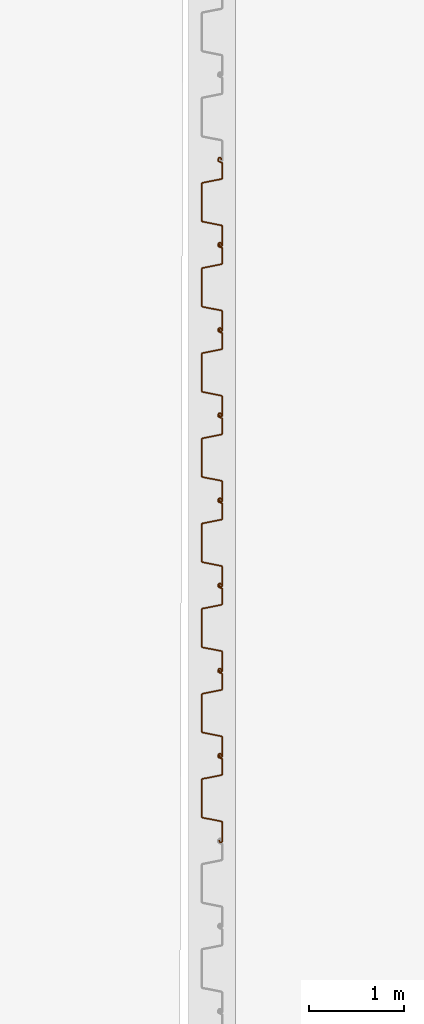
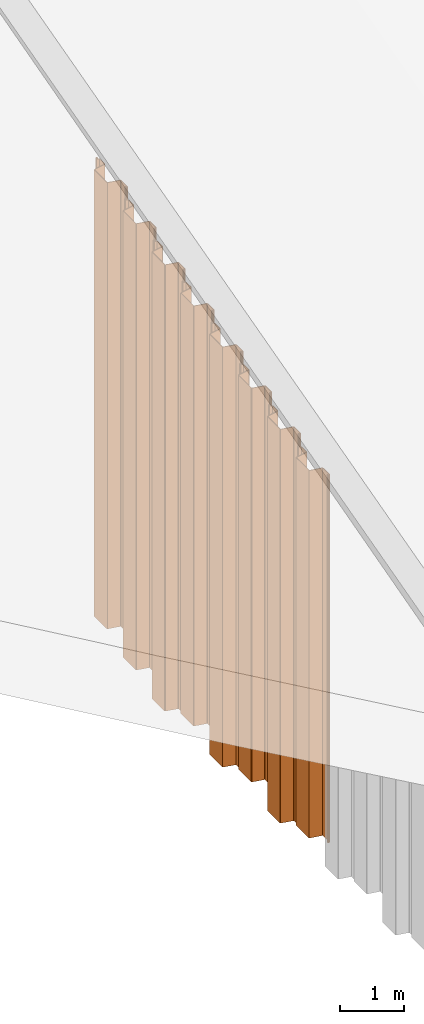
# One storey, part 7 of 32: 8 proxies.
"""IFC2X3 building model written with IfcOpenShell, lengths in millimetres."""

from ifc_helpers import new_model, entity, si_unit, converted_unit, derived_unit, direction, frame, frame_2d, origin, place, context, subcontext, project, spatial, polyline, circle_curve, parameter, trimmed, segment, composite_curve, outline, extrude, source, transform, mapped, type_object, type_shapes, element, save


model = new_model("IFC2X3")

# Units and contexts
model_context = context("Model", 3, precision=0.01, world=origin(), true_north=direction((6.12303176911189e-17, 1.0)))
body_context = subcontext(model_context, "Body", "Model", "MODEL_VIEW")
ifc_project = project(units=[si_unit("LENGTHUNIT", "METRE", prefix="MILLI"), si_unit("AREAUNIT", "SQUARE_METRE"), si_unit("VOLUMEUNIT", "CUBIC_METRE"), converted_unit("PLANEANGLEUNIT", "DEGREE", entity("IfcRatioMeasure", 0.0174532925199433), si_unit("PLANEANGLEUNIT", "RADIAN"), dimensions=[0, 0, 0, 0, 0, 0, 0]), si_unit("MASSUNIT", "GRAM", prefix="KILO"), derived_unit("MASSDENSITYUNIT", [(si_unit("MASSUNIT", "GRAM", prefix="KILO"), 1), (si_unit("LENGTHUNIT", "METRE"), -3)]), si_unit("TIMEUNIT", "SECOND"), si_unit("FREQUENCYUNIT", "HERTZ"), si_unit("THERMODYNAMICTEMPERATUREUNIT", "DEGREE_CELSIUS"), derived_unit("THERMALTRANSMITTANCEUNIT", [(si_unit("MASSUNIT", "GRAM", prefix="KILO"), 1), (si_unit("THERMODYNAMICTEMPERATUREUNIT", "KELVIN"), -1), (si_unit("TIMEUNIT", "SECOND"), -3)]), derived_unit("VOLUMETRICFLOWRATEUNIT", [(si_unit("LENGTHUNIT", "METRE"), 3), (si_unit("TIMEUNIT", "SECOND"), -1)]), si_unit("ELECTRICCURRENTUNIT", "AMPERE"), si_unit("ELECTRICVOLTAGEUNIT", "VOLT"), si_unit("POWERUNIT", "WATT"), si_unit("FORCEUNIT", "NEWTON", prefix="KILO"), si_unit("ILLUMINANCEUNIT", "LUX"), si_unit("LUMINOUSFLUXUNIT", "LUMEN"), si_unit("LUMINOUSINTENSITYUNIT", "CANDELA"), derived_unit("USERDEFINED", [(si_unit("MASSUNIT", "GRAM", prefix="KILO"), -1), (si_unit("LENGTHUNIT", "METRE"), -2), (si_unit("TIMEUNIT", "SECOND"), 3), (si_unit("LUMINOUSFLUXUNIT", "LUMEN"), 1)]), derived_unit("LINEARVELOCITYUNIT", [(si_unit("LENGTHUNIT", "METRE"), 1), (si_unit("TIMEUNIT", "SECOND"), -1)]), si_unit("PRESSUREUNIT", "PASCAL"), derived_unit("USERDEFINED", [(si_unit("LENGTHUNIT", "METRE"), -2), (si_unit("MASSUNIT", "GRAM", prefix="KILO"), 1), (si_unit("TIMEUNIT", "SECOND"), -2)])], contexts=[model_context])

# Site, building, storey
site_placement = place(None, origin())
site = spatial("IfcSite", under=ifc_project, at=site_placement, Name="Default", CompositionType="ELEMENT")
building_placement = place(site_placement, origin())
building = spatial("IfcBuilding", under=site, at=building_placement, CompositionType="ELEMENT")
storey_placement = place(building_placement, origin())
storey = spatial("IfcBuildingStorey", under=building, at=storey_placement, Name="矢板", CompositionType="ELEMENT", Elevation=0.0)

# Proxies
building_element_proxy_type_1 = type_object("IfcBuildingElementProxyType", Name="鋼矢板10H型", PredefinedType="NOTDEFINED")
shared_shape_1 = source(origin(), body_context, "Body", "SweptSolid", [
    extrude(outline(composite_curve([segment(trimmed(circle_curve(frame_2d((85.3662976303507, 306.644432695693), x_axis=(0.422618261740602, 0.906307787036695)), 13.885714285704), [parameter(24.9999999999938)], [parameter(90.0000000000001)], True, "PARAMETER"), True, "CONTINUOUS"), segment(polyline([(72.7815666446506, 312.512789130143), (9.8129512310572, 177.476157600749)]), True, "CONTINUOUS"), segment(trimmed(circle_curve(frame_2d((29.3891994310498, 168.347603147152), x_axis=(0.422618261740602, 0.906307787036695)), 21.6), [parameter(90.0000000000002)], [parameter(168.69006752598)], True, "PARAMETER"), True, "CONTINUOUS"), segment(polyline([(16.598697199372, 150.941769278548), (175.329723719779, 34.2998683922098)]), True, "CONTINUOUS"), segment(trimmed(circle_curve(frame_2d((168.93447260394, 25.596951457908), x_axis=(0.422618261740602, 0.906307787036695)), 10.7999999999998), [parameter(270.0)], [parameter(348.690067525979)], True, "PARAMETER"), False, "CONTINUOUS"), segment(polyline([(178.722596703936, 21.0326742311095), (18.2974003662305, -323.000269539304)]), True, "CONTINUOUS"), segment(trimmed(circle_curve(frame_2d((8.50927626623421, -318.435992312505), x_axis=(0.422618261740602, 0.906307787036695)), 10.8), [parameter(191.30993247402)], [parameter(269.999999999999)], True, "PARAMETER"), False, "CONTINUOUS"), segment(polyline([(5.95324328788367, -328.929166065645), (-185.429973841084, -282.310113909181)]), True, "CONTINUOUS"), segment(trimmed(circle_curve(frame_2d((-190.542039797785, -303.296461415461), x_axis=(0.422618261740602, 0.906307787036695)), 21.6000000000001), [parameter(11.3099324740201)], [parameter(90.0000000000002)], True, "PARAMETER"), True, "CONTINUOUS"), segment(polyline([(-210.118287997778, -294.167906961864), (-290.330886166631, -466.184378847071)]), True, "CONTINUOUS"), segment(trimmed(circle_curve(frame_2d((-270.754637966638, -475.312933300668), x_axis=(0.422618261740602, 0.906307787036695)), 21.6), [parameter(90.0000000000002)], [parameter(269.999999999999)], True, "PARAMETER"), True, "CONTINUOUS"), segment(polyline([(-251.178389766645, -484.441487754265), (-249.065298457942, -479.909948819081)]), True, "CONTINUOUS"), segment(polyline([(-249.065298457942, -479.909948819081), (-258.853422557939, -475.345671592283)]), True, "CONTINUOUS"), segment(polyline([(-258.853422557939, -475.345671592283), (-260.966513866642, -479.877210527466)]), True, "CONTINUOUS"), segment(trimmed(circle_curve(frame_2d((-270.754637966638, -475.312933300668), x_axis=(0.422618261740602, 0.906307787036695)), 10.8), [parameter(90.0000000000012)], [parameter(270.0)], True, "PARAMETER"), False, "CONTINUOUS"), segment(polyline([(-280.542762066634, -470.748656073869), (-200.330163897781, -298.732184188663)]), True, "CONTINUOUS"), segment(trimmed(circle_curve(frame_2d((-190.542039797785, -303.296461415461), x_axis=(0.422618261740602, 0.906307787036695)), 10.8), [parameter(11.3099324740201)], [parameter(89.9999999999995)], True, "PARAMETER"), False, "CONTINUOUS"), segment(polyline([(-187.986006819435, -292.803287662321), (3.39721030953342, -339.422339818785)]), True, "CONTINUOUS"), segment(trimmed(circle_curve(frame_2d((8.50927626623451, -318.435992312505), x_axis=(0.422618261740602, 0.906307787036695)), 21.6), [parameter(191.30993247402)], [parameter(270.0)], True, "PARAMETER"), True, "CONTINUOUS"), segment(polyline([(28.0855244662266, -327.564546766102), (188.510720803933, 16.4683970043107)]), True, "CONTINUOUS"), segment(trimmed(circle_curve(frame_2d((168.93447260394, 25.5969514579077), x_axis=(0.422618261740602, 0.906307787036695)), 21.6), [parameter(270.0)], [parameter(348.69006752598)], True, "PARAMETER"), True, "CONTINUOUS"), segment(polyline([(181.724974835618, 43.0027853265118), (22.9939483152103, 159.644686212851)]), True, "CONTINUOUS"), segment(trimmed(circle_curve(frame_2d((29.3891994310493, 168.347603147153), x_axis=(0.422618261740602, 0.906307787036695)), 10.7999999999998), [parameter(89.9999999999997)], [parameter(168.690067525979)], True, "PARAMETER"), False, "CONTINUOUS"), segment(polyline([(19.6010753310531, 172.911880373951), (82.5696907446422, 307.948511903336)]), True, "CONTINUOUS"), segment(trimmed(circle_curve(frame_2d((85.3662976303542, 306.64443269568), x_axis=(0.422618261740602, 0.906307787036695)), 3.08571428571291), [parameter(25.0000000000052)], [parameter(90.0000000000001)], True, "PARAMETER"), False, "CONTINUOUS"), segment(polyline([(85.3662976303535, 309.730146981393), (122.220231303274, 309.730146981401)]), True, "CONTINUOUS"), segment(trimmed(circle_curve(frame_2d((122.220231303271, 323.615861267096), x_axis=(0.422618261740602, 0.906307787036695)), 13.8857142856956), [parameter(205.000000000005)], [parameter(270.0)], True, "PARAMETER"), True, "CONTINUOUS"), segment(polyline([(134.804962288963, 317.747504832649), (141.079261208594, 331.202782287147)]), True, "CONTINUOUS"), segment(trimmed(circle_curve(frame_2d((121.503013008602, 340.331336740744), x_axis=(0.422618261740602, 0.906307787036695)), 21.6), [parameter(270.0)], [parameter(90.0000000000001)], True, "PARAMETER"), True, "CONTINUOUS"), segment(polyline([(101.926764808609, 349.459891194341), (99.8136734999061, 344.928352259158)]), True, "CONTINUOUS"), segment(polyline([(99.8136734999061, 344.928352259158), (109.601797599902, 340.364075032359)]), True, "CONTINUOUS"), segment(polyline([(109.601797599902, 340.364075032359), (111.714888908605, 344.895613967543)]), True, "CONTINUOUS"), segment(trimmed(circle_curve(frame_2d((121.503013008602, 340.331336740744), x_axis=(0.422618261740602, 0.906307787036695)), 10.8), [parameter(270.0)], [parameter(89.9999999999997)], True, "PARAMETER"), False, "CONTINUOUS"), segment(polyline([(131.291137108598, 335.767059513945), (125.01683818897, 322.311782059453)]), True, "CONTINUOUS"), segment(trimmed(circle_curve(frame_2d((122.220231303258, 323.615861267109), x_axis=(0.422618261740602, 0.906307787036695)), 3.08571428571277), [parameter(204.999999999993)], [parameter(270.0)], True, "PARAMETER"), False, "CONTINUOUS"), segment(polyline([(122.220231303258, 320.530146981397), (85.3662976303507, 320.530146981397)]), True, "CONTINUOUS")], self_intersect=False)), frame((95.205667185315, -48.8888888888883, -7000.0), z_axis=(0.0, 0.0, -1.0), x_axis=(0.4226182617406, 0.906307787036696, 0.0)), (0.0, 0.0, -1.0), 7000.0),
])
type_shapes(building_element_proxy_type_1, [shared_shape_1])
proxy_placement = place(storey_placement, frame((-128208.0, -20449.0, 9183.0), z_axis=(0.0, 0.0, 1.0), x_axis=(0.0, 1.0, 0.0)))
element("IfcBuildingElementProxy", 1, at=proxy_placement, inside=storey, type_object=building_element_proxy_type_1, Name="鋼矢板10H型:鋼矢板10H型", ObjectType="鋼矢板10H型:鋼矢板10H型", context=body_context, shape_type="MappedRepresentation", body=[
    mapped(shared_shape_1, transform((0.0, 0.0, 0.0), scale=1.0)),
])
building_element_proxy_type_2 = type_object("IfcBuildingElementProxyType", Name="鋼矢板10H型", PredefinedType="NOTDEFINED")
shared_shape_2 = source(origin(), body_context, "Body", "SweptSolid", [
    extrude(outline(composite_curve([segment(trimmed(circle_curve(frame_2d((85.3662976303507, 306.644432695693), x_axis=(0.422618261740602, 0.906307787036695)), 13.885714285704), [parameter(24.9999999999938)], [parameter(90.0000000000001)], True, "PARAMETER"), True, "CONTINUOUS"), segment(polyline([(72.7815666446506, 312.512789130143), (9.8129512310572, 177.476157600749)]), True, "CONTINUOUS"), segment(trimmed(circle_curve(frame_2d((29.3891994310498, 168.347603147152), x_axis=(0.422618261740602, 0.906307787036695)), 21.6), [parameter(90.0000000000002)], [parameter(168.69006752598)], True, "PARAMETER"), True, "CONTINUOUS"), segment(polyline([(16.598697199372, 150.941769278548), (175.329723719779, 34.2998683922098)]), True, "CONTINUOUS"), segment(trimmed(circle_curve(frame_2d((168.93447260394, 25.596951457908), x_axis=(0.422618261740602, 0.906307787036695)), 10.7999999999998), [parameter(270.0)], [parameter(348.690067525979)], True, "PARAMETER"), False, "CONTINUOUS"), segment(polyline([(178.722596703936, 21.0326742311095), (18.2974003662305, -323.000269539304)]), True, "CONTINUOUS"), segment(trimmed(circle_curve(frame_2d((8.50927626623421, -318.435992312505), x_axis=(0.422618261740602, 0.906307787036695)), 10.8), [parameter(191.30993247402)], [parameter(269.999999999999)], True, "PARAMETER"), False, "CONTINUOUS"), segment(polyline([(5.95324328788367, -328.929166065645), (-185.429973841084, -282.310113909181)]), True, "CONTINUOUS"), segment(trimmed(circle_curve(frame_2d((-190.542039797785, -303.296461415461), x_axis=(0.422618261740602, 0.906307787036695)), 21.6000000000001), [parameter(11.3099324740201)], [parameter(90.0000000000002)], True, "PARAMETER"), True, "CONTINUOUS"), segment(polyline([(-210.118287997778, -294.167906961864), (-290.330886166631, -466.184378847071)]), True, "CONTINUOUS"), segment(trimmed(circle_curve(frame_2d((-270.754637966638, -475.312933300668), x_axis=(0.422618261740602, 0.906307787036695)), 21.6), [parameter(90.0000000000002)], [parameter(269.999999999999)], True, "PARAMETER"), True, "CONTINUOUS"), segment(polyline([(-251.178389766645, -484.441487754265), (-249.065298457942, -479.909948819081)]), True, "CONTINUOUS"), segment(polyline([(-249.065298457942, -479.909948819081), (-258.853422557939, -475.345671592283)]), True, "CONTINUOUS"), segment(polyline([(-258.853422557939, -475.345671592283), (-260.966513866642, -479.877210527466)]), True, "CONTINUOUS"), segment(trimmed(circle_curve(frame_2d((-270.754637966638, -475.312933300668), x_axis=(0.422618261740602, 0.906307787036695)), 10.8), [parameter(90.0000000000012)], [parameter(270.0)], True, "PARAMETER"), False, "CONTINUOUS"), segment(polyline([(-280.542762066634, -470.748656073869), (-200.330163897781, -298.732184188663)]), True, "CONTINUOUS"), segment(trimmed(circle_curve(frame_2d((-190.542039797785, -303.296461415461), x_axis=(0.422618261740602, 0.906307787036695)), 10.8), [parameter(11.3099324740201)], [parameter(89.9999999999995)], True, "PARAMETER"), False, "CONTINUOUS"), segment(polyline([(-187.986006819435, -292.803287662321), (3.39721030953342, -339.422339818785)]), True, "CONTINUOUS"), segment(trimmed(circle_curve(frame_2d((8.50927626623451, -318.435992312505), x_axis=(0.422618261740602, 0.906307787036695)), 21.6), [parameter(191.30993247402)], [parameter(270.0)], True, "PARAMETER"), True, "CONTINUOUS"), segment(polyline([(28.0855244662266, -327.564546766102), (188.510720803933, 16.4683970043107)]), True, "CONTINUOUS"), segment(trimmed(circle_curve(frame_2d((168.93447260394, 25.5969514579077), x_axis=(0.422618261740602, 0.906307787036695)), 21.6), [parameter(270.0)], [parameter(348.69006752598)], True, "PARAMETER"), True, "CONTINUOUS"), segment(polyline([(181.724974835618, 43.0027853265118), (22.9939483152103, 159.644686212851)]), True, "CONTINUOUS"), segment(trimmed(circle_curve(frame_2d((29.3891994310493, 168.347603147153), x_axis=(0.422618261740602, 0.906307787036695)), 10.7999999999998), [parameter(89.9999999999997)], [parameter(168.690067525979)], True, "PARAMETER"), False, "CONTINUOUS"), segment(polyline([(19.6010753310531, 172.911880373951), (82.5696907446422, 307.948511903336)]), True, "CONTINUOUS"), segment(trimmed(circle_curve(frame_2d((85.3662976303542, 306.64443269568), x_axis=(0.422618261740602, 0.906307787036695)), 3.08571428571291), [parameter(25.0000000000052)], [parameter(90.0000000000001)], True, "PARAMETER"), False, "CONTINUOUS"), segment(polyline([(85.3662976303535, 309.730146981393), (122.220231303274, 309.730146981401)]), True, "CONTINUOUS"), segment(trimmed(circle_curve(frame_2d((122.220231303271, 323.615861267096), x_axis=(0.422618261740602, 0.906307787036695)), 13.8857142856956), [parameter(205.000000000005)], [parameter(270.0)], True, "PARAMETER"), True, "CONTINUOUS"), segment(polyline([(134.804962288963, 317.747504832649), (141.079261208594, 331.202782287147)]), True, "CONTINUOUS"), segment(trimmed(circle_curve(frame_2d((121.503013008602, 340.331336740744), x_axis=(0.422618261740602, 0.906307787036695)), 21.6), [parameter(270.0)], [parameter(90.0000000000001)], True, "PARAMETER"), True, "CONTINUOUS"), segment(polyline([(101.926764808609, 349.459891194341), (99.8136734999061, 344.928352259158)]), True, "CONTINUOUS"), segment(polyline([(99.8136734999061, 344.928352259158), (109.601797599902, 340.364075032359)]), True, "CONTINUOUS"), segment(polyline([(109.601797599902, 340.364075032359), (111.714888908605, 344.895613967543)]), True, "CONTINUOUS"), segment(trimmed(circle_curve(frame_2d((121.503013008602, 340.331336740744), x_axis=(0.422618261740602, 0.906307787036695)), 10.8), [parameter(270.0)], [parameter(89.9999999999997)], True, "PARAMETER"), False, "CONTINUOUS"), segment(polyline([(131.291137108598, 335.767059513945), (125.01683818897, 322.311782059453)]), True, "CONTINUOUS"), segment(trimmed(circle_curve(frame_2d((122.220231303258, 323.615861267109), x_axis=(0.422618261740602, 0.906307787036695)), 3.08571428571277), [parameter(204.999999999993)], [parameter(270.0)], True, "PARAMETER"), False, "CONTINUOUS"), segment(polyline([(122.220231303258, 320.530146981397), (85.3662976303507, 320.530146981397)]), True, "CONTINUOUS")], self_intersect=False)), frame((95.205667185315, -48.8888888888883, -7500.0), z_axis=(0.0, 0.0, -1.0), x_axis=(0.4226182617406, 0.906307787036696, 0.0)), (0.0, 0.0, -1.0), 7500.0),
])
type_shapes(building_element_proxy_type_2, [shared_shape_2])
for number, where, z_axis, x_axis in (
    (2, (-128208.0, -18649.0, 9657.0), (0.0, 0.0, 1.0), (0.0, 1.0, 0.0)),
    (3, (-128208.0, -19549.0, 9420.0), (0.0, 0.0, 1.0), (0.0, 1.0, 0.0)),
):
    element("IfcBuildingElementProxy", number, at=place(storey_placement, frame(where, z_axis=z_axis, x_axis=x_axis)), inside=storey, type_object=building_element_proxy_type_2, Name="鋼矢板10H型:鋼矢板10H型", ObjectType="鋼矢板10H型:鋼矢板10H型", context=body_context, shape_type="MappedRepresentation", body=[
        mapped(shared_shape_2, transform((0.0, 0.0, 0.0), scale=1.0)),
    ])
building_element_proxy_type_3 = type_object("IfcBuildingElementProxyType", Name="鋼矢板10H型", PredefinedType="NOTDEFINED")
shared_shape_3 = source(origin(), body_context, "Body", "SweptSolid", [
    extrude(outline(composite_curve([segment(trimmed(circle_curve(frame_2d((85.3662976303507, 306.644432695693), x_axis=(0.422618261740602, 0.906307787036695)), 13.885714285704), [parameter(24.9999999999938)], [parameter(90.0000000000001)], True, "PARAMETER"), True, "CONTINUOUS"), segment(polyline([(72.7815666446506, 312.512789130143), (9.8129512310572, 177.476157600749)]), True, "CONTINUOUS"), segment(trimmed(circle_curve(frame_2d((29.3891994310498, 168.347603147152), x_axis=(0.422618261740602, 0.906307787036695)), 21.6), [parameter(90.0000000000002)], [parameter(168.69006752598)], True, "PARAMETER"), True, "CONTINUOUS"), segment(polyline([(16.598697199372, 150.941769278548), (175.329723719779, 34.2998683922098)]), True, "CONTINUOUS"), segment(trimmed(circle_curve(frame_2d((168.93447260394, 25.596951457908), x_axis=(0.422618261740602, 0.906307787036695)), 10.7999999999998), [parameter(270.0)], [parameter(348.690067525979)], True, "PARAMETER"), False, "CONTINUOUS"), segment(polyline([(178.722596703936, 21.0326742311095), (18.2974003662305, -323.000269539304)]), True, "CONTINUOUS"), segment(trimmed(circle_curve(frame_2d((8.50927626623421, -318.435992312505), x_axis=(0.422618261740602, 0.906307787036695)), 10.8), [parameter(191.30993247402)], [parameter(269.999999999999)], True, "PARAMETER"), False, "CONTINUOUS"), segment(polyline([(5.95324328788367, -328.929166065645), (-185.429973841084, -282.310113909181)]), True, "CONTINUOUS"), segment(trimmed(circle_curve(frame_2d((-190.542039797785, -303.296461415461), x_axis=(0.422618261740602, 0.906307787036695)), 21.6000000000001), [parameter(11.3099324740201)], [parameter(90.0000000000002)], True, "PARAMETER"), True, "CONTINUOUS"), segment(polyline([(-210.118287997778, -294.167906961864), (-290.330886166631, -466.184378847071)]), True, "CONTINUOUS"), segment(trimmed(circle_curve(frame_2d((-270.754637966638, -475.312933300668), x_axis=(0.422618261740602, 0.906307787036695)), 21.6), [parameter(90.0000000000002)], [parameter(269.999999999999)], True, "PARAMETER"), True, "CONTINUOUS"), segment(polyline([(-251.178389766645, -484.441487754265), (-249.065298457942, -479.909948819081)]), True, "CONTINUOUS"), segment(polyline([(-249.065298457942, -479.909948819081), (-258.853422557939, -475.345671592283)]), True, "CONTINUOUS"), segment(polyline([(-258.853422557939, -475.345671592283), (-260.966513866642, -479.877210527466)]), True, "CONTINUOUS"), segment(trimmed(circle_curve(frame_2d((-270.754637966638, -475.312933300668), x_axis=(0.422618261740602, 0.906307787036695)), 10.8), [parameter(90.0000000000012)], [parameter(270.0)], True, "PARAMETER"), False, "CONTINUOUS"), segment(polyline([(-280.542762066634, -470.748656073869), (-200.330163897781, -298.732184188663)]), True, "CONTINUOUS"), segment(trimmed(circle_curve(frame_2d((-190.542039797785, -303.296461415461), x_axis=(0.422618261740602, 0.906307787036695)), 10.8), [parameter(11.3099324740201)], [parameter(89.9999999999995)], True, "PARAMETER"), False, "CONTINUOUS"), segment(polyline([(-187.986006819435, -292.803287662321), (3.39721030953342, -339.422339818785)]), True, "CONTINUOUS"), segment(trimmed(circle_curve(frame_2d((8.50927626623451, -318.435992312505), x_axis=(0.422618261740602, 0.906307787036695)), 21.6), [parameter(191.30993247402)], [parameter(270.0)], True, "PARAMETER"), True, "CONTINUOUS"), segment(polyline([(28.0855244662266, -327.564546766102), (188.510720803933, 16.4683970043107)]), True, "CONTINUOUS"), segment(trimmed(circle_curve(frame_2d((168.93447260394, 25.5969514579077), x_axis=(0.422618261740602, 0.906307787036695)), 21.6), [parameter(270.0)], [parameter(348.69006752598)], True, "PARAMETER"), True, "CONTINUOUS"), segment(polyline([(181.724974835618, 43.0027853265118), (22.9939483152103, 159.644686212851)]), True, "CONTINUOUS"), segment(trimmed(circle_curve(frame_2d((29.3891994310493, 168.347603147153), x_axis=(0.422618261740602, 0.906307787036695)), 10.7999999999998), [parameter(89.9999999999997)], [parameter(168.690067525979)], True, "PARAMETER"), False, "CONTINUOUS"), segment(polyline([(19.6010753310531, 172.911880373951), (82.5696907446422, 307.948511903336)]), True, "CONTINUOUS"), segment(trimmed(circle_curve(frame_2d((85.3662976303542, 306.64443269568), x_axis=(0.422618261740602, 0.906307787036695)), 3.08571428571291), [parameter(25.0000000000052)], [parameter(90.0000000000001)], True, "PARAMETER"), False, "CONTINUOUS"), segment(polyline([(85.3662976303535, 309.730146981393), (122.220231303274, 309.730146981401)]), True, "CONTINUOUS"), segment(trimmed(circle_curve(frame_2d((122.220231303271, 323.615861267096), x_axis=(0.422618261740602, 0.906307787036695)), 13.8857142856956), [parameter(205.000000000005)], [parameter(270.0)], True, "PARAMETER"), True, "CONTINUOUS"), segment(polyline([(134.804962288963, 317.747504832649), (141.079261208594, 331.202782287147)]), True, "CONTINUOUS"), segment(trimmed(circle_curve(frame_2d((121.503013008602, 340.331336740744), x_axis=(0.422618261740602, 0.906307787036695)), 21.6), [parameter(270.0)], [parameter(90.0000000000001)], True, "PARAMETER"), True, "CONTINUOUS"), segment(polyline([(101.926764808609, 349.459891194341), (99.8136734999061, 344.928352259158)]), True, "CONTINUOUS"), segment(polyline([(99.8136734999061, 344.928352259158), (109.601797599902, 340.364075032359)]), True, "CONTINUOUS"), segment(polyline([(109.601797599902, 340.364075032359), (111.714888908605, 344.895613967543)]), True, "CONTINUOUS"), segment(trimmed(circle_curve(frame_2d((121.503013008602, 340.331336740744), x_axis=(0.422618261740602, 0.906307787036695)), 10.8), [parameter(270.0)], [parameter(89.9999999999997)], True, "PARAMETER"), False, "CONTINUOUS"), segment(polyline([(131.291137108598, 335.767059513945), (125.01683818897, 322.311782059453)]), True, "CONTINUOUS"), segment(trimmed(circle_curve(frame_2d((122.220231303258, 323.615861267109), x_axis=(0.422618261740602, 0.906307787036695)), 3.08571428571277), [parameter(204.999999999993)], [parameter(270.0)], True, "PARAMETER"), False, "CONTINUOUS"), segment(polyline([(122.220231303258, 320.530146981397), (85.3662976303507, 320.530146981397)]), True, "CONTINUOUS")], self_intersect=False)), frame((95.205667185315, -48.8888888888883, -8000.0), z_axis=(0.0, 0.0, -1.0), x_axis=(0.4226182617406, 0.906307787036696, 0.0)), (0.0, 0.0, -1.0), 8000.0),
])
type_shapes(building_element_proxy_type_3, [shared_shape_3])
for number, where, z_axis, x_axis in (
    (4, (-128208.0, -16849.0, 10131.0), (0.0, 0.0, 1.0), (0.0, 1.0, 0.0)),
    (5, (-128208.0, -17749.0, 9894.0), (0.0, 0.0, 1.0), (0.0, 1.0, 0.0)),
):
    element("IfcBuildingElementProxy", number, at=place(storey_placement, frame(where, z_axis=z_axis, x_axis=x_axis)), inside=storey, type_object=building_element_proxy_type_3, Name="鋼矢板10H型:鋼矢板10H型", ObjectType="鋼矢板10H型:鋼矢板10H型", context=body_context, shape_type="MappedRepresentation", body=[
        mapped(shared_shape_3, transform((0.0, 0.0, 0.0), scale=1.0)),
    ])
building_element_proxy_type_4 = type_object("IfcBuildingElementProxyType", Name="鋼矢板10H型", PredefinedType="NOTDEFINED")
shared_shape_4 = source(origin(), body_context, "Body", "SweptSolid", [
    extrude(outline(composite_curve([segment(trimmed(circle_curve(frame_2d((85.3662976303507, 306.644432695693), x_axis=(0.422618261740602, 0.906307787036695)), 13.885714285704), [parameter(24.9999999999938)], [parameter(90.0000000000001)], True, "PARAMETER"), True, "CONTINUOUS"), segment(polyline([(72.7815666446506, 312.512789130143), (9.8129512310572, 177.476157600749)]), True, "CONTINUOUS"), segment(trimmed(circle_curve(frame_2d((29.3891994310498, 168.347603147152), x_axis=(0.422618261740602, 0.906307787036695)), 21.6), [parameter(90.0000000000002)], [parameter(168.69006752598)], True, "PARAMETER"), True, "CONTINUOUS"), segment(polyline([(16.598697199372, 150.941769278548), (175.329723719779, 34.2998683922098)]), True, "CONTINUOUS"), segment(trimmed(circle_curve(frame_2d((168.93447260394, 25.596951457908), x_axis=(0.422618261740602, 0.906307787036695)), 10.7999999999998), [parameter(270.0)], [parameter(348.690067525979)], True, "PARAMETER"), False, "CONTINUOUS"), segment(polyline([(178.722596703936, 21.0326742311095), (18.2974003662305, -323.000269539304)]), True, "CONTINUOUS"), segment(trimmed(circle_curve(frame_2d((8.50927626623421, -318.435992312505), x_axis=(0.422618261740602, 0.906307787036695)), 10.8), [parameter(191.30993247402)], [parameter(269.999999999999)], True, "PARAMETER"), False, "CONTINUOUS"), segment(polyline([(5.95324328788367, -328.929166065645), (-185.429973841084, -282.310113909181)]), True, "CONTINUOUS"), segment(trimmed(circle_curve(frame_2d((-190.542039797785, -303.296461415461), x_axis=(0.422618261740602, 0.906307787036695)), 21.6000000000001), [parameter(11.3099324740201)], [parameter(90.0000000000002)], True, "PARAMETER"), True, "CONTINUOUS"), segment(polyline([(-210.118287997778, -294.167906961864), (-290.330886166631, -466.184378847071)]), True, "CONTINUOUS"), segment(trimmed(circle_curve(frame_2d((-270.754637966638, -475.312933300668), x_axis=(0.422618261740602, 0.906307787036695)), 21.6), [parameter(90.0000000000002)], [parameter(269.999999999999)], True, "PARAMETER"), True, "CONTINUOUS"), segment(polyline([(-251.178389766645, -484.441487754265), (-249.065298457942, -479.909948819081)]), True, "CONTINUOUS"), segment(polyline([(-249.065298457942, -479.909948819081), (-258.853422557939, -475.345671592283)]), True, "CONTINUOUS"), segment(polyline([(-258.853422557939, -475.345671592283), (-260.966513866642, -479.877210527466)]), True, "CONTINUOUS"), segment(trimmed(circle_curve(frame_2d((-270.754637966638, -475.312933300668), x_axis=(0.422618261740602, 0.906307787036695)), 10.8), [parameter(90.0000000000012)], [parameter(270.0)], True, "PARAMETER"), False, "CONTINUOUS"), segment(polyline([(-280.542762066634, -470.748656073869), (-200.330163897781, -298.732184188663)]), True, "CONTINUOUS"), segment(trimmed(circle_curve(frame_2d((-190.542039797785, -303.296461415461), x_axis=(0.422618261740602, 0.906307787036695)), 10.8), [parameter(11.3099324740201)], [parameter(89.9999999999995)], True, "PARAMETER"), False, "CONTINUOUS"), segment(polyline([(-187.986006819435, -292.803287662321), (3.39721030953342, -339.422339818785)]), True, "CONTINUOUS"), segment(trimmed(circle_curve(frame_2d((8.50927626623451, -318.435992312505), x_axis=(0.422618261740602, 0.906307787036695)), 21.6), [parameter(191.30993247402)], [parameter(270.0)], True, "PARAMETER"), True, "CONTINUOUS"), segment(polyline([(28.0855244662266, -327.564546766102), (188.510720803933, 16.4683970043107)]), True, "CONTINUOUS"), segment(trimmed(circle_curve(frame_2d((168.93447260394, 25.5969514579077), x_axis=(0.422618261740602, 0.906307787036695)), 21.6), [parameter(270.0)], [parameter(348.69006752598)], True, "PARAMETER"), True, "CONTINUOUS"), segment(polyline([(181.724974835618, 43.0027853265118), (22.9939483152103, 159.644686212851)]), True, "CONTINUOUS"), segment(trimmed(circle_curve(frame_2d((29.3891994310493, 168.347603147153), x_axis=(0.422618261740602, 0.906307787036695)), 10.7999999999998), [parameter(89.9999999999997)], [parameter(168.690067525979)], True, "PARAMETER"), False, "CONTINUOUS"), segment(polyline([(19.6010753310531, 172.911880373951), (82.5696907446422, 307.948511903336)]), True, "CONTINUOUS"), segment(trimmed(circle_curve(frame_2d((85.3662976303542, 306.64443269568), x_axis=(0.422618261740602, 0.906307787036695)), 3.08571428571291), [parameter(25.0000000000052)], [parameter(90.0000000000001)], True, "PARAMETER"), False, "CONTINUOUS"), segment(polyline([(85.3662976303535, 309.730146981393), (122.220231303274, 309.730146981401)]), True, "CONTINUOUS"), segment(trimmed(circle_curve(frame_2d((122.220231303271, 323.615861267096), x_axis=(0.422618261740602, 0.906307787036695)), 13.8857142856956), [parameter(205.000000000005)], [parameter(270.0)], True, "PARAMETER"), True, "CONTINUOUS"), segment(polyline([(134.804962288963, 317.747504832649), (141.079261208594, 331.202782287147)]), True, "CONTINUOUS"), segment(trimmed(circle_curve(frame_2d((121.503013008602, 340.331336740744), x_axis=(0.422618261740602, 0.906307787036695)), 21.6), [parameter(270.0)], [parameter(90.0000000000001)], True, "PARAMETER"), True, "CONTINUOUS"), segment(polyline([(101.926764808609, 349.459891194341), (99.8136734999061, 344.928352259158)]), True, "CONTINUOUS"), segment(polyline([(99.8136734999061, 344.928352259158), (109.601797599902, 340.364075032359)]), True, "CONTINUOUS"), segment(polyline([(109.601797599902, 340.364075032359), (111.714888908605, 344.895613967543)]), True, "CONTINUOUS"), segment(trimmed(circle_curve(frame_2d((121.503013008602, 340.331336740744), x_axis=(0.422618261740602, 0.906307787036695)), 10.8), [parameter(270.0)], [parameter(89.9999999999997)], True, "PARAMETER"), False, "CONTINUOUS"), segment(polyline([(131.291137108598, 335.767059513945), (125.01683818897, 322.311782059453)]), True, "CONTINUOUS"), segment(trimmed(circle_curve(frame_2d((122.220231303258, 323.615861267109), x_axis=(0.422618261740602, 0.906307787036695)), 3.08571428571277), [parameter(204.999999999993)], [parameter(270.0)], True, "PARAMETER"), False, "CONTINUOUS"), segment(polyline([(122.220231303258, 320.530146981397), (85.3662976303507, 320.530146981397)]), True, "CONTINUOUS")], self_intersect=False)), frame((95.205667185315, -48.8888888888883, -8500.0), z_axis=(0.0, 0.0, -1.0), x_axis=(0.4226182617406, 0.906307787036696, 0.0)), (0.0, 0.0, -1.0), 8500.0),
])
type_shapes(building_element_proxy_type_4, [shared_shape_4])
for number, where, z_axis, x_axis in (
    (6, (-128208.0, -14149.0, 10843.0), (0.0, 0.0, 1.0), (0.0, 1.0, 0.0)),
    (7, (-128208.0, -15049.0, 10605.0), (0.0, 0.0, 1.0), (0.0, 1.0, 0.0)),
    (8, (-128208.0, -15949.0, 10368.0), (0.0, 0.0, 1.0), (0.0, 1.0, 0.0)),
):
    element("IfcBuildingElementProxy", number, at=place(storey_placement, frame(where, z_axis=z_axis, x_axis=x_axis)), inside=storey, type_object=building_element_proxy_type_4, Name="鋼矢板10H型:鋼矢板10H型", ObjectType="鋼矢板10H型:鋼矢板10H型", context=body_context, shape_type="MappedRepresentation", body=[
        mapped(shared_shape_4, transform((0.0, 0.0, 0.0), scale=1.0)),
    ])

save(model, "model.ifc")
